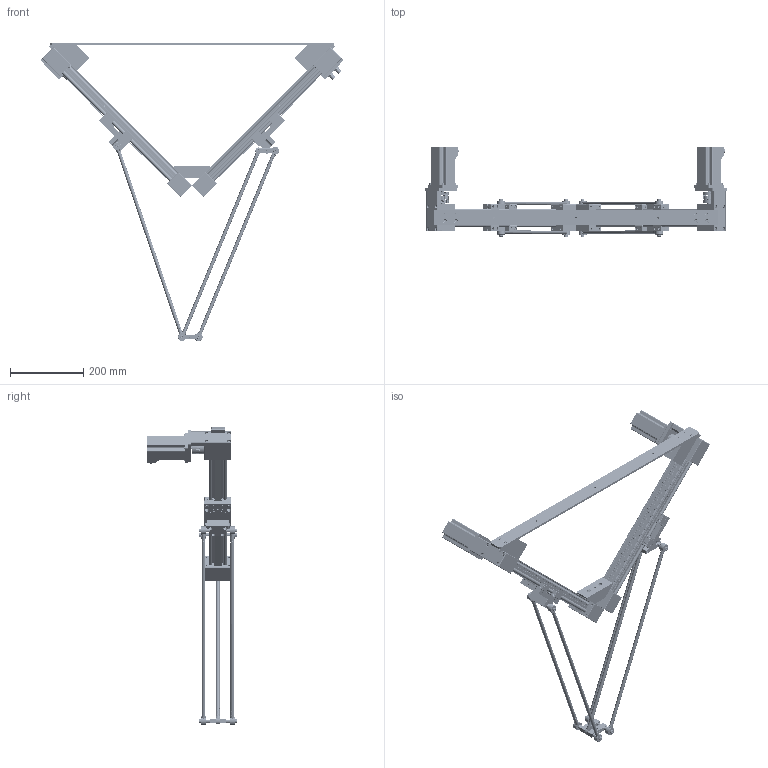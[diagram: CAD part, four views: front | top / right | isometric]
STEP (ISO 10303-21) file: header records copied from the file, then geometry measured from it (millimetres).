
FILE_DESCRIPTION(/* description */ ('Zweiachskinematik'),/* implementation_level */ '2;1');
FILE_NAME(/* name */ 'I:\Gleitlager\Konstruktion\Kundenteile\Drylin\4811999 (igus Köln)\4811999-210828\DLE-ZR-4811999-210828.stp',/* time_stamp */ '2021-08-30T08:14:21+02:00',/* author */ ('fkoeching'),/* organization */ (''),/* preprocessor_version */ 'ST-DEVELOPER v18.1',/* originating_system */ 'Autodesk Inventor 2020',/* authorisation */ '');
FILE_SCHEMA (('CONFIG_CONTROL_DESIGN'));
Products named in the file (72): DLE-ZR-4811999-210828; D00336047.ipt; ETY-DR-0013; ZLW-X1-4811999-210828; ZTF-104004; SAXT-104004; MK-0111; MONT0030000; ZLW-X2-4811999-210828; ZSX-104001; ZTL-104002; SAXT-104001; ZTL-10400S-V; NOR-10412; SAWT-104006; ZR-104001; ZR-104001-XX; ZSY-104002; NOR-10735; ZTF-104002; NOR-10604; SAXT-104002; SAXT-104003; ZTF-10400S-V; NOR-20901; SAWT-104004; ZTY-104035; ZTZ-104009; ZSA-104001-AL; ZSY-104001; WJ200UMA-01-10-AL; WMA-01-10-AL; WRZ-011007; J200UMA-01-10; NOR-10601; MK-0111_1; MF-1040-NEMA23-S; ZTY-104004; ZTY-104010; NOR-10516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
Assembly tree (203 placements, depth 5):
  DLE-ZR-4811999-210828
    D00336047.ipt
    ETY-DR-0013  x2
    ZLW-X1-4811999-210828
      ZSX-104001
      ZTL-104002
        NOR-10614  x2
        SAXT-104001
        SAXT-104002
        ZTL-10400S-V
          NOR-10412  x4
          NOR-20901  x2
          NOR-10604  x4
          SAWT-104006
          ZTY-104035  x2
        ZTZ-104009  x2
      ZR-104001
        ZR-104001-XX
        NOR-10735  x2
        ZSY-104002  x2
      ZTF-104004
        NOR-10614  x2
        NOR-10604  x2
        SAXT-104002
        SAXT-104004
        ZTF-10400S-V
          NOR-20901  x2
          SAWT-104004
          ZTY-104035  x2
        ZTZ-104009  x2
      ZSA-104001-AL
        ZSY-104001
        WJ200UMA-01-10-AL  x4
          WMA-01-10-AL
          WRZ-011007
          J200UMA-01-10
        NOR-10601  x4
      MK-0111
        MF-1040-NEMA23-S
          ZTY-104004
          ZTY-104010
          NOR-10516  x2
          MH-06  x2
          NOR-10523  x4
          NOR-20114  x4
          NOR-11003  x4
        MOT-AN-S-060-035-060-M-C-AAAC
          1
          2
        COU-AR-K-080-100-32-32-B-AAAA
      NOR-20602  x8
      NOR-10412_1  x4
      MONT0030000
    ZLW-X2-4811999-210828
      ZSX-104001
      ZTL-104002
        NOR-10614  x2
        SAXT-104001
        SAXT-104002
        ZTL-10400S-V
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Bounding box: 825.07 x 243.8 x 814.02 mm (x, y, z)
Volume: 3001541 mm3; surface area: 1418159.2 mm2
Topology: 256 solids, 260 shells, 10091 faces, 26760 edges, 17513 vertices
Faces by surface type: plane 5098, cylinder 3005, cone 746, bspline 664, torus 454, sphere 124
Full cylindrical faces by diameter (mm): 1.8 x18, 2.459 x6, 2.5 x2, 3 x3, 3.2 x2, 3.242 x14, 3.4 x2, 4 x42, 4.018 x8, 4.134 x72, 4.2 x4, 4.3 x10, 4.5 x16, 4.917 x44, 5 x97, 5.4 x2, 5.5 x36, 5.96 x8, 6 x64, 6.2 x16, 6.5 x1, 6.6 x28, 6.647 x9, 7 x22, 7.4 x4, 8 x43, 8.05 x2, 8.2 x6, 8.5 x16, 8.7 x10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
Entity records: 104501 total; most frequent: CARTESIAN_POINT 27135, DIRECTION 15914, ORIENTED_EDGE 15324, EDGE_CURVE 7662, AXIS2_PLACEMENT_3D 5936, VERTEX_POINT 5081, LINE 4042, VECTOR 4042
